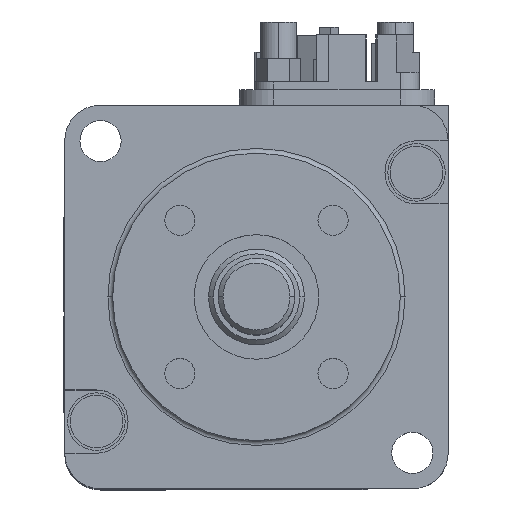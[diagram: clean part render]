
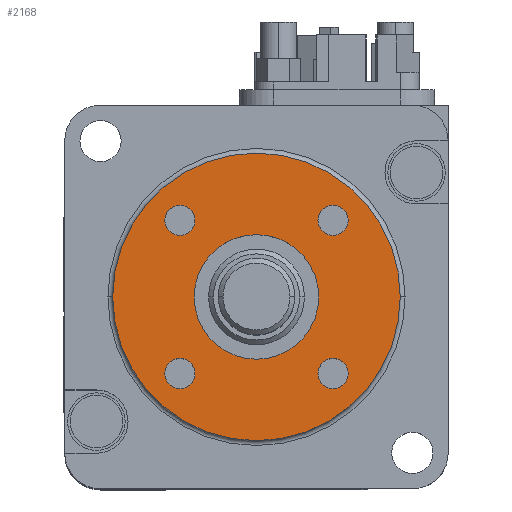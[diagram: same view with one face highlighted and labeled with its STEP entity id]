
A CAD part, top view. The second image highlights one B-rep face of the part: STEP entity #2168.
In plain terms, the highlighted planar face has unit normal (0, 0, 1).
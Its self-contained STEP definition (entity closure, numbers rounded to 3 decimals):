
#43 = DIRECTION ( 'NONE',  ( 1., 0., 0. ) ) ;
#356 = CARTESIAN_POINT ( 'NONE',  ( 15., 0., 2.5 ) ) ;
#403 = VERTEX_POINT ( 'NONE', #6714 ) ;
#418 = EDGE_CURVE ( 'NONE', #9242, #10651, #4309, .T. ) ;
#521 = DIRECTION ( 'NONE',  ( 0., 0., 1. ) ) ;
#591 = EDGE_LOOP ( 'NONE', ( #9739, #10029 ) ) ;
#646 = CARTESIAN_POINT ( 'NONE',  ( -7.99, -7.99, 2.5 ) ) ;
#661 = CARTESIAN_POINT ( 'NONE',  ( -9.564, 7.99, 2.5 ) ) ;
#746 = ORIENTED_EDGE ( 'NONE', *, *, #9681, .F. ) ;
#825 = CARTESIAN_POINT ( 'NONE',  ( -6.5, 0., 2.5 ) ) ;
#854 = CARTESIAN_POINT ( 'NONE',  ( -7.99, -7.99, 2.5 ) ) ;
#857 = CIRCLE ( 'NONE', #8944, 1.574 ) ;
#902 = DIRECTION ( 'NONE',  ( 0., 0., 1. ) ) ;
#920 = DIRECTION ( 'NONE',  ( 0., 0., 1. ) ) ;
#926 = DIRECTION ( 'NONE',  ( 1., 0., 0. ) ) ;
#1018 = EDGE_CURVE ( 'NONE', #1834, #9614, #8509, .T. ) ;
#1413 = DIRECTION ( 'NONE',  ( 0., 0., 1. ) ) ;
#1487 = AXIS2_PLACEMENT_3D ( 'NONE', #6466, #521, #7317 ) ;
#1550 = DIRECTION ( 'NONE',  ( 1., 0., 0. ) ) ;
#1648 = DIRECTION ( 'NONE',  ( 0., 0., 1. ) ) ;
#1716 = DIRECTION ( 'NONE',  ( 0., 0., 1. ) ) ;
#1750 = CIRCLE ( 'NONE', #5408, 1.574 ) ;
#1777 = DIRECTION ( 'NONE',  ( 1., 0., 0. ) ) ;
#1834 = VERTEX_POINT ( 'NONE', #7230 ) ;
#1901 = CARTESIAN_POINT ( 'NONE',  ( -6.416, 7.99, 2.5 ) ) ;
#2034 = FACE_BOUND ( 'NONE', #5970, .T. ) ;
#2161 = DIRECTION ( 'NONE',  ( 0., 0., 1. ) ) ;
#2168 = ADVANCED_FACE ( 'NONE', ( #9387, #2305, #9642, #5984, #2034, #4377 ), #3037, .T. ) ;
#2305 = FACE_BOUND ( 'NONE', #6063, .T. ) ;
#2403 = DIRECTION ( 'NONE',  ( 1., 0., 0. ) ) ;
#2669 = EDGE_CURVE ( 'NONE', #4078, #9231, #857, .T. ) ;
#2834 = EDGE_CURVE ( 'NONE', #2905, #6254, #2937, .T. ) ;
#2905 = VERTEX_POINT ( 'NONE', #825 ) ;
#2937 = CIRCLE ( 'NONE', #3096, 6.5 ) ;
#2949 = AXIS2_PLACEMENT_3D ( 'NONE', #8056, #2161, #10533 ) ;
#2979 = EDGE_CURVE ( 'NONE', #5162, #9912, #8353, .T. ) ;
#3037 = PLANE ( 'NONE',  #1487 ) ;
#3096 = AXIS2_PLACEMENT_3D ( 'NONE', #9932, #4918, #8282 ) ;
#3116 = EDGE_CURVE ( 'NONE', #10651, #9242, #9155, .T. ) ;
#3199 = AXIS2_PLACEMENT_3D ( 'NONE', #854, #1716, #9240 ) ;
#3741 = ORIENTED_EDGE ( 'NONE', *, *, #6252, .F. ) ;
#3910 = CIRCLE ( 'NONE', #9793, 1.574 ) ;
#4018 = CARTESIAN_POINT ( 'NONE',  ( 7.99, 7.99, 2.5 ) ) ;
#4078 = VERTEX_POINT ( 'NONE', #9962 ) ;
#4217 = AXIS2_PLACEMENT_3D ( 'NONE', #10021, #5862, #43 ) ;
#4309 = CIRCLE ( 'NONE', #9182, 15. ) ;
#4377 = FACE_OUTER_BOUND ( 'NONE', #591, .T. ) ;
#4536 = AXIS2_PLACEMENT_3D ( 'NONE', #5856, #6743, #2403 ) ;
#4777 = ORIENTED_EDGE ( 'NONE', *, *, #5290, .F. ) ;
#4824 = ORIENTED_EDGE ( 'NONE', *, *, #2979, .F. ) ;
#4864 = DIRECTION ( 'NONE',  ( 1., 0., 0. ) ) ;
#4918 = DIRECTION ( 'NONE',  ( 0., 0., 1. ) ) ;
#4959 = ORIENTED_EDGE ( 'NONE', *, *, #1018, .F. ) ;
#5162 = VERTEX_POINT ( 'NONE', #661 ) ;
#5214 = ORIENTED_EDGE ( 'NONE', *, *, #2669, .F. ) ;
#5290 = EDGE_CURVE ( 'NONE', #6254, #2905, #6451, .T. ) ;
#5347 = CARTESIAN_POINT ( 'NONE',  ( 9.564, -7.99, 2.5 ) ) ;
#5408 = AXIS2_PLACEMENT_3D ( 'NONE', #7211, #1413, #8893 ) ;
#5856 = CARTESIAN_POINT ( 'NONE',  ( -7.99, 7.99, 2.5 ) ) ;
#5862 = DIRECTION ( 'NONE',  ( 0., 0., 1. ) ) ;
#5955 = DIRECTION ( 'NONE',  ( 0., 0., 1. ) ) ;
#5970 = EDGE_LOOP ( 'NONE', ( #4777, #10473 ) ) ;
#5984 = FACE_BOUND ( 'NONE', #6658, .T. ) ;
#6063 = EDGE_LOOP ( 'NONE', ( #10112, #9495 ) ) ;
#6252 = EDGE_CURVE ( 'NONE', #9231, #4078, #3910, .T. ) ;
#6254 = VERTEX_POINT ( 'NONE', #7533 ) ;
#6413 = CARTESIAN_POINT ( 'NONE',  ( 9.564, 7.99, 2.5 ) ) ;
#6451 = CIRCLE ( 'NONE', #4217, 6.5 ) ;
#6466 = CARTESIAN_POINT ( 'NONE',  ( 0., 0., 2.5 ) ) ;
#6586 = EDGE_CURVE ( 'NONE', #8535, #403, #7216, .T. ) ;
#6658 = EDGE_LOOP ( 'NONE', ( #3741, #5214 ) ) ;
#6687 = CARTESIAN_POINT ( 'NONE',  ( 7.99, 7.99, 2.5 ) ) ;
#6714 = CARTESIAN_POINT ( 'NONE',  ( -6.416, -7.99, 2.5 ) ) ;
#6743 = DIRECTION ( 'NONE',  ( 0., 0., 1. ) ) ;
#6768 = CARTESIAN_POINT ( 'NONE',  ( -7.99, 7.99, 2.5 ) ) ;
#6801 = DIRECTION ( 'NONE',  ( 1., 0., 0. ) ) ;
#7211 = CARTESIAN_POINT ( 'NONE',  ( 7.99, -7.99, 2.5 ) ) ;
#7216 = CIRCLE ( 'NONE', #3199, 1.574 ) ;
#7230 = CARTESIAN_POINT ( 'NONE',  ( 6.416, -7.99, 2.5 ) ) ;
#7317 = DIRECTION ( 'NONE',  ( 1., 0., 0. ) ) ;
#7533 = CARTESIAN_POINT ( 'NONE',  ( 6.5, 0., 2.5 ) ) ;
#7607 = AXIS2_PLACEMENT_3D ( 'NONE', #6768, #920, #6801 ) ;
#7625 = EDGE_CURVE ( 'NONE', #403, #8535, #8263, .T. ) ;
#7654 = AXIS2_PLACEMENT_3D ( 'NONE', #10108, #5955, #926 ) ;
#8056 = CARTESIAN_POINT ( 'NONE',  ( 0., 0., 2.5 ) ) ;
#8225 = CIRCLE ( 'NONE', #4536, 1.574 ) ;
#8229 = CARTESIAN_POINT ( 'NONE',  ( -15., 0., 2.5 ) ) ;
#8263 = CIRCLE ( 'NONE', #10404, 1.574 ) ;
#8282 = DIRECTION ( 'NONE',  ( 1., 0., 0. ) ) ;
#8353 = CIRCLE ( 'NONE', #7607, 1.574 ) ;
#8398 = CARTESIAN_POINT ( 'NONE',  ( 0., 0., 2.5 ) ) ;
#8461 = ORIENTED_EDGE ( 'NONE', *, *, #9293, .F. ) ;
#8509 = CIRCLE ( 'NONE', #7654, 1.574 ) ;
#8535 = VERTEX_POINT ( 'NONE', #10464 ) ;
#8893 = DIRECTION ( 'NONE',  ( 1., 0., 0. ) ) ;
#8944 = AXIS2_PLACEMENT_3D ( 'NONE', #4018, #8965, #4864 ) ;
#8965 = DIRECTION ( 'NONE',  ( 0., 0., 1. ) ) ;
#9135 = DIRECTION ( 'NONE',  ( 1., 0., 0. ) ) ;
#9155 = CIRCLE ( 'NONE', #2949, 15. ) ;
#9170 = DIRECTION ( 'NONE',  ( 0., 0., 1. ) ) ;
#9182 = AXIS2_PLACEMENT_3D ( 'NONE', #8398, #902, #1777 ) ;
#9231 = VERTEX_POINT ( 'NONE', #6413 ) ;
#9240 = DIRECTION ( 'NONE',  ( 1., 0., 0. ) ) ;
#9242 = VERTEX_POINT ( 'NONE', #8229 ) ;
#9293 = EDGE_CURVE ( 'NONE', #9912, #5162, #8225, .T. ) ;
#9387 = FACE_BOUND ( 'NONE', #9999, .T. ) ;
#9495 = ORIENTED_EDGE ( 'NONE', *, *, #6586, .F. ) ;
#9614 = VERTEX_POINT ( 'NONE', #5347 ) ;
#9642 = FACE_BOUND ( 'NONE', #10010, .T. ) ;
#9681 = EDGE_CURVE ( 'NONE', #9614, #1834, #1750, .T. ) ;
#9739 = ORIENTED_EDGE ( 'NONE', *, *, #418, .T. ) ;
#9793 = AXIS2_PLACEMENT_3D ( 'NONE', #6687, #1648, #9135 ) ;
#9912 = VERTEX_POINT ( 'NONE', #1901 ) ;
#9932 = CARTESIAN_POINT ( 'NONE',  ( 0., 0., 2.5 ) ) ;
#9962 = CARTESIAN_POINT ( 'NONE',  ( 6.416, 7.99, 2.5 ) ) ;
#9999 = EDGE_LOOP ( 'NONE', ( #746, #4959 ) ) ;
#10010 = EDGE_LOOP ( 'NONE', ( #8461, #4824 ) ) ;
#10021 = CARTESIAN_POINT ( 'NONE',  ( 0., 0., 2.5 ) ) ;
#10029 = ORIENTED_EDGE ( 'NONE', *, *, #3116, .T. ) ;
#10108 = CARTESIAN_POINT ( 'NONE',  ( 7.99, -7.99, 2.5 ) ) ;
#10112 = ORIENTED_EDGE ( 'NONE', *, *, #7625, .F. ) ;
#10404 = AXIS2_PLACEMENT_3D ( 'NONE', #646, #9170, #1550 ) ;
#10464 = CARTESIAN_POINT ( 'NONE',  ( -9.564, -7.99, 2.5 ) ) ;
#10473 = ORIENTED_EDGE ( 'NONE', *, *, #2834, .F. ) ;
#10533 = DIRECTION ( 'NONE',  ( 1., 0., 0. ) ) ;
#10651 = VERTEX_POINT ( 'NONE', #356 ) ;
